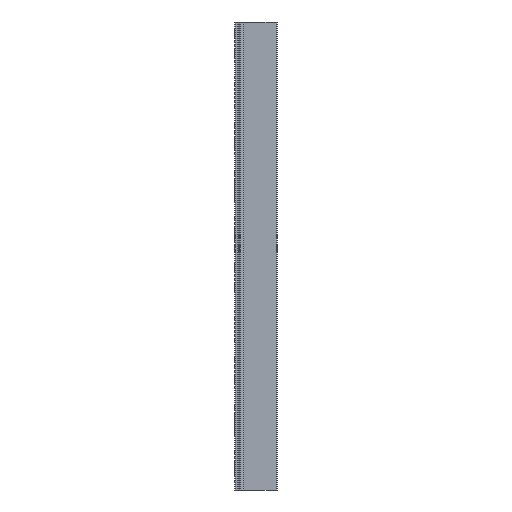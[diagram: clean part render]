
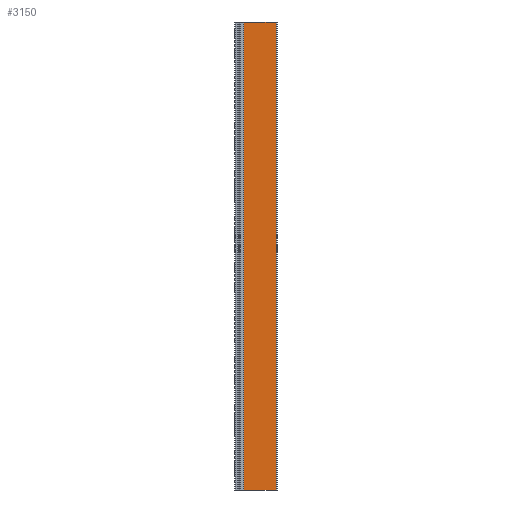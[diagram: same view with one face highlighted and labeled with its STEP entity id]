
A CAD part, left-side view. The second image highlights one B-rep face of the part: STEP entity #3150.
In plain terms, the highlighted planar face has unit normal (-1, 0, 0).
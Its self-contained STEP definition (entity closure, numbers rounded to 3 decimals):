
#76 = CARTESIAN_POINT ( 'NONE',  ( 2.7, -1.5, 0. ) ) ;
#314 = ORIENTED_EDGE ( 'NONE', *, *, #4368, .T. ) ;
#463 = VERTEX_POINT ( 'NONE', #3779 ) ;
#668 = ORIENTED_EDGE ( 'NONE', *, *, #2714, .F. ) ;
#743 = ORIENTED_EDGE ( 'NONE', *, *, #2241, .F. ) ;
#1222 = PLANE ( 'NONE',  #2860 ) ;
#1227 = CARTESIAN_POINT ( 'NONE',  ( 2.7, -1.5, -300. ) ) ;
#1231 = DIRECTION ( 'NONE',  ( -1., 0., 0. ) ) ;
#1241 = DIRECTION ( 'NONE',  ( 0., -1., 0. ) ) ;
#1420 = LINE ( 'NONE', #4787, #2700 ) ;
#1911 = VECTOR ( 'NONE', #2731, 1000. ) ;
#2003 = LINE ( 'NONE', #2949, #2099 ) ;
#2005 = CARTESIAN_POINT ( 'NONE',  ( 2.7, -23.55, -300. ) ) ;
#2014 = LINE ( 'NONE', #2712, #1911 ) ;
#2099 = VECTOR ( 'NONE', #2876, 1000. ) ;
#2165 = DIRECTION ( 'NONE',  ( 0., -1., 0. ) ) ;
#2175 = CARTESIAN_POINT ( 'NONE',  ( 2.7, -1.5, 0. ) ) ;
#2205 = VERTEX_POINT ( 'NONE', #4916 ) ;
#2241 = EDGE_CURVE ( 'NONE', #463, #2603, #1420, .T. ) ;
#2525 = ORIENTED_EDGE ( 'NONE', *, *, #4481, .T. ) ;
#2530 = VERTEX_POINT ( 'NONE', #2005 ) ;
#2603 = VERTEX_POINT ( 'NONE', #76 ) ;
#2700 = VECTOR ( 'NONE', #4765, 1000. ) ;
#2712 = CARTESIAN_POINT ( 'NONE',  ( 2.7, -23.55, -300. ) ) ;
#2714 = EDGE_CURVE ( 'NONE', #2603, #2205, #4102, .T. ) ;
#2731 = DIRECTION ( 'NONE',  ( 0., 0., 1. ) ) ;
#2860 = AXIS2_PLACEMENT_3D ( 'NONE', #1227, #1231, #1241 ) ;
#2876 = DIRECTION ( 'NONE',  ( 0., -1., 0. ) ) ;
#2949 = CARTESIAN_POINT ( 'NONE',  ( 2.7, -1.5, -300. ) ) ;
#3105 = FACE_OUTER_BOUND ( 'NONE', #4854, .T. ) ;
#3150 = ADVANCED_FACE ( 'NONE', ( #3105 ), #1222, .T. ) ;
#3779 = CARTESIAN_POINT ( 'NONE',  ( 2.7, -1.5, -300. ) ) ;
#4102 = LINE ( 'NONE', #2175, #4315 ) ;
#4315 = VECTOR ( 'NONE', #2165, 1000. ) ;
#4368 = EDGE_CURVE ( 'NONE', #463, #2530, #2003, .T. ) ;
#4481 = EDGE_CURVE ( 'NONE', #2530, #2205, #2014, .T. ) ;
#4765 = DIRECTION ( 'NONE',  ( 0., 0., 1. ) ) ;
#4787 = CARTESIAN_POINT ( 'NONE',  ( 2.7, -1.5, -300. ) ) ;
#4854 = EDGE_LOOP ( 'NONE', ( #314, #2525, #668, #743 ) ) ;
#4916 = CARTESIAN_POINT ( 'NONE',  ( 2.7, -23.55, 0. ) ) ;
